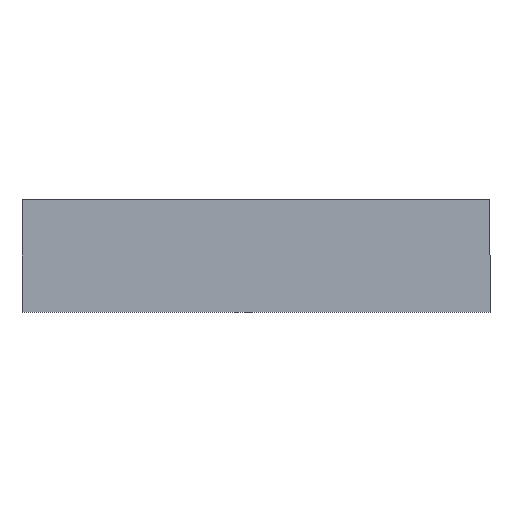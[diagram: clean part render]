
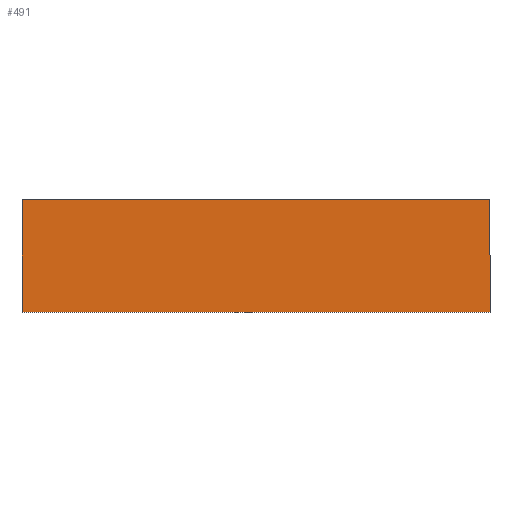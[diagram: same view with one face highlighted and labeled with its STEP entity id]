
A CAD part, front view. The second image highlights one B-rep face of the part: STEP entity #491.
In plain terms, the highlighted planar face has unit normal (0, -1, 0).
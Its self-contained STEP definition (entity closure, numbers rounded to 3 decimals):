
#15 = EDGE_CURVE ( 'NONE', #279, #201, #305, .T. ) ;
#27 = EDGE_CURVE ( 'NONE', #210, #241, #470, .T. ) ;
#51 = EDGE_CURVE ( 'NONE', #241, #279, #339, .T. ) ;
#63 = AXIS2_PLACEMENT_3D ( 'NONE', #117, #191, #193 ) ;
#67 = EDGE_CURVE ( 'NONE', #201, #210, #310, .T. ) ;
#89 = CARTESIAN_POINT ( 'NONE',  ( -104., 0., 0. ) ) ;
#91 = PLANE ( 'NONE',  #63 ) ;
#112 = CARTESIAN_POINT ( 'NONE',  ( -104., 0., 50. ) ) ;
#117 = CARTESIAN_POINT ( 'NONE',  ( -104., 0., 50. ) ) ;
#126 = CARTESIAN_POINT ( 'NONE',  ( -104., 0., 50. ) ) ;
#129 = CARTESIAN_POINT ( 'NONE',  ( 104., 0., 50. ) ) ;
#132 = CARTESIAN_POINT ( 'NONE',  ( 104., 0., 0. ) ) ;
#144 = CARTESIAN_POINT ( 'NONE',  ( -104., 0., 0. ) ) ;
#191 = DIRECTION ( 'NONE',  ( 0., 1., 0. ) ) ;
#193 = DIRECTION ( 'NONE',  ( -1., 0., 0. ) ) ;
#196 = DIRECTION ( 'NONE',  ( 1., 0., 0. ) ) ;
#198 = CARTESIAN_POINT ( 'NONE',  ( -104., 0., 0. ) ) ;
#201 = VERTEX_POINT ( 'NONE', #112 ) ;
#210 = VERTEX_POINT ( 'NONE', #144 ) ;
#233 = DIRECTION ( 'NONE',  ( 0., 0., -1. ) ) ;
#236 = DIRECTION ( 'NONE',  ( -1., 0., 0. ) ) ;
#241 = VERTEX_POINT ( 'NONE', #132 ) ;
#243 = DIRECTION ( 'NONE',  ( 0., 0., 1. ) ) ;
#268 = CARTESIAN_POINT ( 'NONE',  ( 104., 0., 0. ) ) ;
#279 = VERTEX_POINT ( 'NONE', #129 ) ;
#287 = ORIENTED_EDGE ( 'NONE', *, *, #27, .T. ) ;
#305 = LINE ( 'NONE', #126, #472 ) ;
#310 = LINE ( 'NONE', #89, #475 ) ;
#311 = ORIENTED_EDGE ( 'NONE', *, *, #51, .T. ) ;
#339 = LINE ( 'NONE', #268, #423 ) ;
#367 = ORIENTED_EDGE ( 'NONE', *, *, #15, .T. ) ;
#423 = VECTOR ( 'NONE', #243, 1000. ) ;
#444 = EDGE_LOOP ( 'NONE', ( #467, #287, #311, #367 ) ) ;
#449 = FACE_OUTER_BOUND ( 'NONE', #444, .T. ) ;
#465 = VECTOR ( 'NONE', #196, 1000. ) ;
#467 = ORIENTED_EDGE ( 'NONE', *, *, #67, .T. ) ;
#470 = LINE ( 'NONE', #198, #465 ) ;
#472 = VECTOR ( 'NONE', #236, 1000. ) ;
#475 = VECTOR ( 'NONE', #233, 1000. ) ;
#491 = ADVANCED_FACE ( 'NONE', ( #449 ), #91, .F. ) ;
